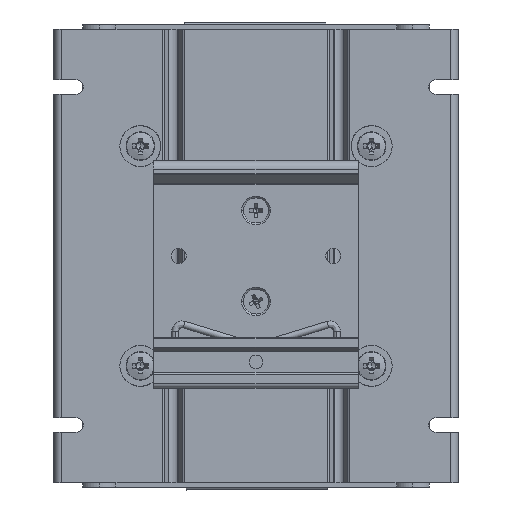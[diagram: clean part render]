
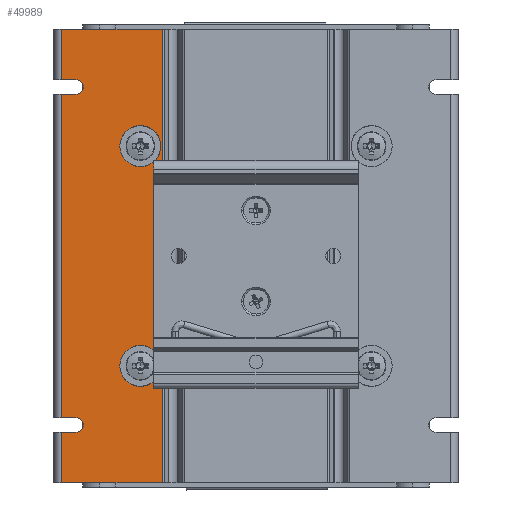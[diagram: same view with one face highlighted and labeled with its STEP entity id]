
A CAD part, front view. The second image highlights one B-rep face of the part: STEP entity #49989.
In plain terms, the highlighted planar face has unit normal (0, -1, 0) as drawn and (0, 1, 0) by its records, which use the part's own axes.
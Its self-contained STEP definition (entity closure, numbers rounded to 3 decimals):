
#172 = DIRECTION ( 'NONE',  ( -1., 0., 0. ) ) ;
#1640 = EDGE_CURVE ( 'NONE', #32686, #51419, #59687, .T. ) ;
#2342 = EDGE_CURVE ( 'NONE', #36542, #23383, #56674, .T. ) ;
#2420 = CARTESIAN_POINT ( 'NONE',  ( -20.9, 44.45, 24.13 ) ) ;
#2785 = VERTEX_POINT ( 'NONE', #8071 ) ;
#2905 = VERTEX_POINT ( 'NONE', #9434 ) ;
#2922 = VERTEX_POINT ( 'NONE', #35871 ) ;
#3155 = LINE ( 'NONE', #65486, #29678 ) ;
#3334 = VECTOR ( 'NONE', #4604, 1000. ) ;
#3733 = CARTESIAN_POINT ( 'NONE',  ( 0., 44.45, -49.8 ) ) ;
#4042 = DIRECTION ( 'NONE',  ( 0., -1., 0. ) ) ;
#4133 = CARTESIAN_POINT ( 'NONE',  ( -20.58, 44.45, 49.8 ) ) ;
#4146 = VERTEX_POINT ( 'NONE', #38560 ) ;
#4604 = DIRECTION ( 'NONE',  ( 1., 0., 0. ) ) ;
#4973 = LINE ( 'NONE', #51677, #3334 ) ;
#5704 = CARTESIAN_POINT ( 'NONE',  ( -20.58, 44.45, 49.8 ) ) ;
#6959 = CARTESIAN_POINT ( 'NONE',  ( 44.45, 44.45, -38.7 ) ) ;
#7481 = VERTEX_POINT ( 'NONE', #53489 ) ;
#8071 = CARTESIAN_POINT ( 'NONE',  ( -39.55, 44.45, 38.7 ) ) ;
#8147 = LINE ( 'NONE', #55466, #20565 ) ;
#8495 = CARTESIAN_POINT ( 'NONE',  ( -42.7, 44.45, 38.7 ) ) ;
#8498 = CIRCLE ( 'NONE', #25210, 4.5 ) ;
#9003 = FACE_OUTER_BOUND ( 'NONE', #39169, .T. ) ;
#9112 = PLANE ( 'NONE',  #30684 ) ;
#9434 = CARTESIAN_POINT ( 'NONE',  ( -42.7, 44.45, -35.5 ) ) ;
#9779 = CARTESIAN_POINT ( 'NONE',  ( 44.45, 44.45, 35.5 ) ) ;
#10410 = CIRCLE ( 'NONE', #27444, 1.6 ) ;
#11015 = DIRECTION ( 'NONE',  ( 0., 0., 1. ) ) ;
#11329 = CIRCLE ( 'NONE', #21867, 1.6 ) ;
#11480 = DIRECTION ( 'NONE',  ( 0., 1., 0. ) ) ;
#12000 = VERTEX_POINT ( 'NONE', #36219 ) ;
#12094 = VECTOR ( 'NONE', #37307, 1000. ) ;
#12280 = DIRECTION ( 'NONE',  ( -1., 0., 0. ) ) ;
#12741 = VECTOR ( 'NONE', #58657, 1000. ) ;
#14384 = EDGE_CURVE ( 'NONE', #2785, #2922, #10410, .T. ) ;
#15409 = VECTOR ( 'NONE', #12280, 1000. ) ;
#16125 = DIRECTION ( 'NONE',  ( 0., 1., 0. ) ) ;
#16273 = AXIS2_PLACEMENT_3D ( 'NONE', #63589, #31874, #172 ) ;
#16362 = ORIENTED_EDGE ( 'NONE', *, *, #31757, .F. ) ;
#16413 = CARTESIAN_POINT ( 'NONE',  ( 44.45, 44.45, -35.5 ) ) ;
#16458 = CARTESIAN_POINT ( 'NONE',  ( -25.4, 44.45, -24.13 ) ) ;
#16505 = CARTESIAN_POINT ( 'NONE',  ( -42.7, 44.45, 49.8 ) ) ;
#16843 = VECTOR ( 'NONE', #11015, 1000. ) ;
#17163 = VERTEX_POINT ( 'NONE', #4133 ) ;
#18084 = ORIENTED_EDGE ( 'NONE', *, *, #2342, .F. ) ;
#19186 = ORIENTED_EDGE ( 'NONE', *, *, #43596, .F. ) ;
#20342 = CIRCLE ( 'NONE', #16273, 4.5 ) ;
#20565 = VECTOR ( 'NONE', #29002, 1000. ) ;
#21424 = FACE_BOUND ( 'NONE', #40771, .T. ) ;
#21760 = DIRECTION ( 'NONE',  ( -1., 0., 0. ) ) ;
#21867 = AXIS2_PLACEMENT_3D ( 'NONE', #55710, #23919, #60971 ) ;
#21965 = CARTESIAN_POINT ( 'NONE',  ( -42.7, 44.45, 35.5 ) ) ;
#21996 = CARTESIAN_POINT ( 'NONE',  ( -42.7, 44.45, 49.8 ) ) ;
#22305 = CARTESIAN_POINT ( 'NONE',  ( -39.55, 44.45, 37.1 ) ) ;
#22785 = VECTOR ( 'NONE', #35444, 1000. ) ;
#22961 = ORIENTED_EDGE ( 'NONE', *, *, #35227, .F. ) ;
#23332 = ORIENTED_EDGE ( 'NONE', *, *, #67522, .F. ) ;
#23383 = VERTEX_POINT ( 'NONE', #8495 ) ;
#23660 = EDGE_CURVE ( 'NONE', #51419, #32686, #20342, .T. ) ;
#23919 = DIRECTION ( 'NONE',  ( 0., 1., 0. ) ) ;
#24540 = ORIENTED_EDGE ( 'NONE', *, *, #57317, .F. ) ;
#25210 = AXIS2_PLACEMENT_3D ( 'NONE', #43256, #11480, #48619 ) ;
#26479 = CARTESIAN_POINT ( 'NONE',  ( -25.4, 44.45, 24.13 ) ) ;
#27020 = EDGE_LOOP ( 'NONE', ( #22961, #19186 ) ) ;
#27093 = ORIENTED_EDGE ( 'NONE', *, *, #1640, .F. ) ;
#27444 = AXIS2_PLACEMENT_3D ( 'NONE', #22305, #59337, #27651 ) ;
#27577 = VERTEX_POINT ( 'NONE', #65438 ) ;
#27651 = DIRECTION ( 'NONE',  ( -1., 0., 0. ) ) ;
#28353 = ORIENTED_EDGE ( 'NONE', *, *, #14384, .F. ) ;
#28450 = DIRECTION ( 'NONE',  ( 0., 0., -1. ) ) ;
#29002 = DIRECTION ( 'NONE',  ( 0., 0., -1. ) ) ;
#29632 = EDGE_CURVE ( 'NONE', #7481, #27577, #11329, .T. ) ;
#29678 = VECTOR ( 'NONE', #28450, 1000. ) ;
#30684 = AXIS2_PLACEMENT_3D ( 'NONE', #35773, #4042, #41131 ) ;
#31087 = ORIENTED_EDGE ( 'NONE', *, *, #62792, .F. ) ;
#31510 = EDGE_CURVE ( 'NONE', #27577, #60706, #59313, .T. ) ;
#31757 = EDGE_CURVE ( 'NONE', #48806, #49435, #36905, .T. ) ;
#31874 = DIRECTION ( 'NONE',  ( 0., 1., 0. ) ) ;
#32686 = VERTEX_POINT ( 'NONE', #2420 ) ;
#34043 = CARTESIAN_POINT ( 'NONE',  ( 44.45, 44.45, 49.8 ) ) ;
#35227 = EDGE_CURVE ( 'NONE', #12000, #4146, #39258, .T. ) ;
#35444 = DIRECTION ( 'NONE',  ( 1., 0., 0. ) ) ;
#35773 = CARTESIAN_POINT ( 'NONE',  ( 44.45, 44.45, 49.8 ) ) ;
#35871 = CARTESIAN_POINT ( 'NONE',  ( -39.55, 44.45, 35.5 ) ) ;
#36219 = CARTESIAN_POINT ( 'NONE',  ( -29.9, 44.45, -24.13 ) ) ;
#36542 = VERTEX_POINT ( 'NONE', #21996 ) ;
#36905 = LINE ( 'NONE', #3733, #22785 ) ;
#37307 = DIRECTION ( 'NONE',  ( 1., 0., 0. ) ) ;
#38560 = CARTESIAN_POINT ( 'NONE',  ( -20.9, 44.45, -24.13 ) ) ;
#38567 = CARTESIAN_POINT ( 'NONE',  ( -29.9, 44.45, 24.13 ) ) ;
#39169 = EDGE_LOOP ( 'NONE', ( #57802, #16362, #52314, #61274, #50981, #56904, #31087, #23332, #28353, #24540, #18084, #44563 ) ) ;
#39258 = CIRCLE ( 'NONE', #67226, 4.5 ) ;
#39794 = CARTESIAN_POINT ( 'NONE',  ( -20.58, 44.45, -49.8 ) ) ;
#40771 = EDGE_LOOP ( 'NONE', ( #50899, #27093 ) ) ;
#41131 = DIRECTION ( 'NONE',  ( 1., 0., 0. ) ) ;
#43048 = VECTOR ( 'NONE', #57534, 1000. ) ;
#43256 = CARTESIAN_POINT ( 'NONE',  ( -25.4, 44.45, -24.13 ) ) ;
#43596 = EDGE_CURVE ( 'NONE', #4146, #12000, #8498, .T. ) ;
#44563 = ORIENTED_EDGE ( 'NONE', *, *, #47432, .T. ) ;
#44725 = DIRECTION ( 'NONE',  ( 1., 0., 0. ) ) ;
#45083 = LINE ( 'NONE', #5704, #16843 ) ;
#45588 = EDGE_CURVE ( 'NONE', #49435, #17163, #45083, .T. ) ;
#46855 = EDGE_CURVE ( 'NONE', #60706, #48806, #8147, .T. ) ;
#47432 = EDGE_CURVE ( 'NONE', #36542, #17163, #67690, .T. ) ;
#48619 = DIRECTION ( 'NONE',  ( -1., 0., 0. ) ) ;
#48806 = VERTEX_POINT ( 'NONE', #63014 ) ;
#49435 = VERTEX_POINT ( 'NONE', #39794 ) ;
#49686 = FACE_BOUND ( 'NONE', #27020, .T. ) ;
#49989 = ADVANCED_FACE ( 'NONE', ( #9003, #21424, #49686 ), #9112, .F. ) ;
#50899 = ORIENTED_EDGE ( 'NONE', *, *, #23660, .F. ) ;
#50981 = ORIENTED_EDGE ( 'NONE', *, *, #29632, .F. ) ;
#51419 = VERTEX_POINT ( 'NONE', #38567 ) ;
#51677 = CARTESIAN_POINT ( 'NONE',  ( 44.45, 44.45, 38.7 ) ) ;
#52314 = ORIENTED_EDGE ( 'NONE', *, *, #46855, .F. ) ;
#53230 = DIRECTION ( 'NONE',  ( -1., 0., 0. ) ) ;
#53489 = CARTESIAN_POINT ( 'NONE',  ( -39.55, 44.45, -35.5 ) ) ;
#53562 = DIRECTION ( 'NONE',  ( 0., 1., 0. ) ) ;
#53682 = VECTOR ( 'NONE', #44725, 1000. ) ;
#54424 = LINE ( 'NONE', #16413, #12094 ) ;
#55466 = CARTESIAN_POINT ( 'NONE',  ( -42.7, 44.45, 49.8 ) ) ;
#55710 = CARTESIAN_POINT ( 'NONE',  ( -39.55, 44.45, -37.1 ) ) ;
#56674 = LINE ( 'NONE', #16505, #12741 ) ;
#56816 = CARTESIAN_POINT ( 'NONE',  ( -42.7, 44.45, -38.7 ) ) ;
#56904 = ORIENTED_EDGE ( 'NONE', *, *, #68248, .F. ) ;
#57110 = LINE ( 'NONE', #9779, #43048 ) ;
#57317 = EDGE_CURVE ( 'NONE', #23383, #2785, #4973, .T. ) ;
#57534 = DIRECTION ( 'NONE',  ( -1., 0., 0. ) ) ;
#57802 = ORIENTED_EDGE ( 'NONE', *, *, #45588, .F. ) ;
#58657 = DIRECTION ( 'NONE',  ( 0., 0., -1. ) ) ;
#59313 = LINE ( 'NONE', #6959, #15409 ) ;
#59337 = DIRECTION ( 'NONE',  ( 0., 1., 0. ) ) ;
#59687 = CIRCLE ( 'NONE', #60815, 4.5 ) ;
#60706 = VERTEX_POINT ( 'NONE', #56816 ) ;
#60815 = AXIS2_PLACEMENT_3D ( 'NONE', #26479, #16125, #53230 ) ;
#60971 = DIRECTION ( 'NONE',  ( -1., 0., 0. ) ) ;
#61274 = ORIENTED_EDGE ( 'NONE', *, *, #31510, .F. ) ;
#62792 = EDGE_CURVE ( 'NONE', #68293, #2905, #3155, .T. ) ;
#63014 = CARTESIAN_POINT ( 'NONE',  ( -42.7, 44.45, -49.8 ) ) ;
#63589 = CARTESIAN_POINT ( 'NONE',  ( -25.4, 44.45, 24.13 ) ) ;
#65438 = CARTESIAN_POINT ( 'NONE',  ( -39.55, 44.45, -38.7 ) ) ;
#65486 = CARTESIAN_POINT ( 'NONE',  ( -42.7, 44.45, 49.8 ) ) ;
#67226 = AXIS2_PLACEMENT_3D ( 'NONE', #16458, #53562, #21760 ) ;
#67522 = EDGE_CURVE ( 'NONE', #2922, #68293, #57110, .T. ) ;
#67690 = LINE ( 'NONE', #34043, #53682 ) ;
#68248 = EDGE_CURVE ( 'NONE', #2905, #7481, #54424, .T. ) ;
#68293 = VERTEX_POINT ( 'NONE', #21965 ) ;
